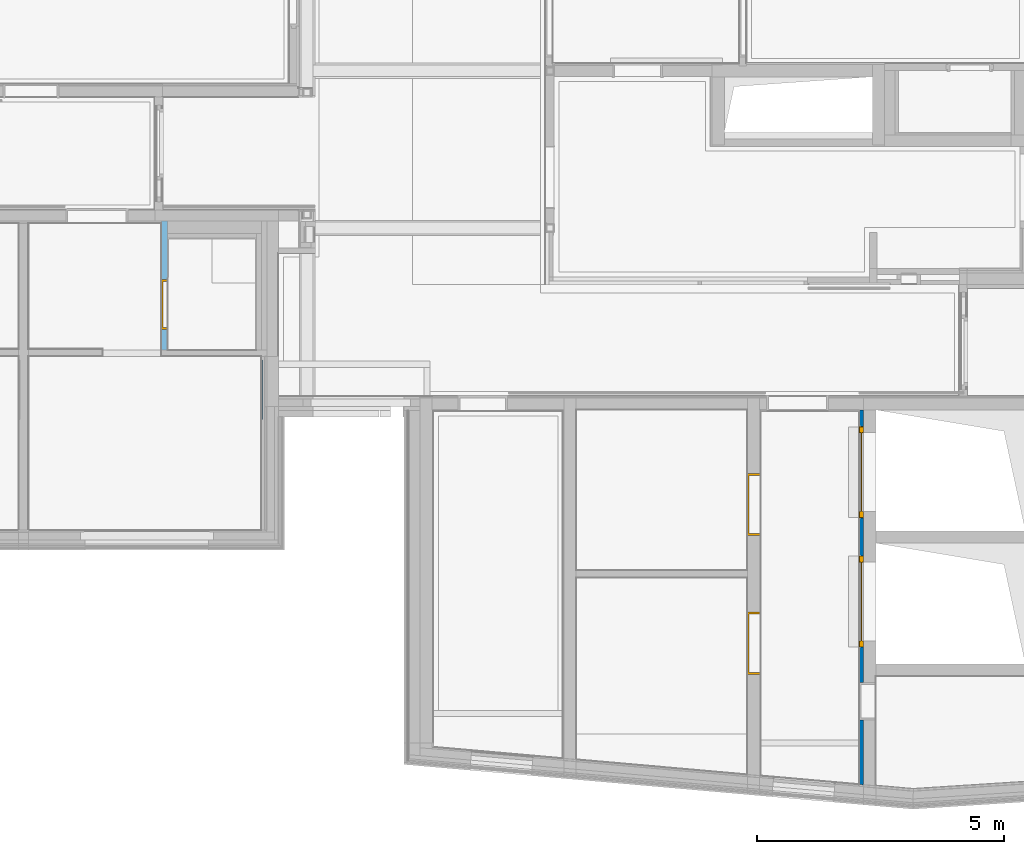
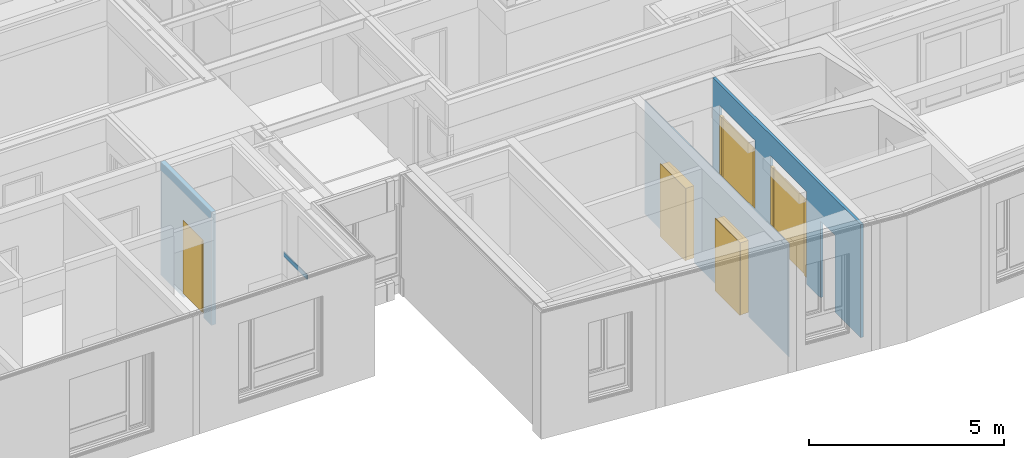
# One storey, part 80 of 222: 5 doors, 2 walls, 6 openings, plus 2 elements that do not belong to this part.
"""IFC4 building model written with IfcOpenShell, lengths in metres."""

from ifc_helpers import new_model, entity, si_unit, converted_unit, derived_unit, frame, frame_2d, origin, origin_with_axes, place, context, subcontext, project, spatial, polyline, rectangle, outline, extrude, faceted_brep, source, transform, mapped, material, type_object, element, fill, save


model = new_model("IFC4")

# Units and contexts
model_context = context("Model", 3, precision=1e-05, world=origin())
body_context = subcontext(model_context, "Body", "Model", "MODEL_VIEW")
ifc_project = project(units=[si_unit("LENGTHUNIT", "METRE"), si_unit("AREAUNIT", "SQUARE_METRE"), si_unit("VOLUMEUNIT", "CUBIC_METRE"), si_unit("MASSUNIT", "GRAM", prefix="KILO"), converted_unit("PLANEANGLEUNIT", "DEGREE", entity("IfcPlaneAngleMeasure", 0.0174532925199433), si_unit("PLANEANGLEUNIT", "RADIAN"), dimensions=[0, 0, 0, 0, 0, 0, 0]), derived_unit("THERMALTRANSMITTANCEUNIT", [(si_unit("POWERUNIT", "WATT"), 1), (si_unit("THERMODYNAMICTEMPERATUREUNIT", "KELVIN"), -1), (si_unit("LENGTHUNIT", "METRE"), -2)]), derived_unit("VOLUMETRICFLOWRATEUNIT", [(si_unit("LENGTHUNIT", "METRE"), 3), (converted_unit("TIMEUNIT", "hour", entity("IfcTimeMeasure", 3600.0), si_unit("TIMEUNIT", "SECOND"), dimensions=[0, 0, 1, 0, 0, 0, 0]), -1), (si_unit("LENGTHUNIT", "METRE"), -1)])], contexts=[model_context])

# Site, building, storey
site_placement = place(None, origin())
site = spatial("IfcSite", under=ifc_project, at=site_placement, Name="Psychiatrie Neubau Wunstorf", CompositionType="ELEMENT")
building_placement = place(site_placement, origin())
building = spatial("IfcBuilding", under=site, at=building_placement, Name="Neubau H2 Stationsgebäude", CompositionType="ELEMENT")
storey_placement = place(building_placement, frame((0.0, 0.0, 3.6)))
storey = spatial("IfcBuildingStorey", under=building, at=storey_placement, Name="H2 Ebene +1", CompositionType="ELEMENT", Elevation=3.6)

# Wall, opening, door
ifc_material_1 = material(Name="WI-LB")
wall_1_placement = place(storey_placement, frame((32.7925, 4.09874963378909, 0.0), z_axis=(0.0, 0.0, 1.0), x_axis=(0.0, -1.0, 0.0)))
wall_1 = element("IfcWall", 1, at=wall_1_placement, inside=storey, material=ifc_material_1, context=body_context, shape_type="SweptSolid", body=[
    extrude(rectangle(XDim=2.61499999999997, YDim=0.125, at=frame_2d((1.30749999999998, 0.0625), x_axis=(1.0, 0.0))), origin_with_axes(), (0.0, 0.0, 1.0), 3.55),
])
opening_1_placement = place(wall_1_placement, frame((2.19000000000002, 0.125, 0.0), z_axis=(0.0, -1.0, 0.0), x_axis=(0.0, 0.0, 1.0)))
opening_1 = element("IfcOpeningElement", 2, at=opening_1_placement, cuts=wall_1, Name="Türöffnung", ObjectType="Opening", context=body_context, shape_type="SweptSolid", body=[
    extrude(outline(polyline([(2.41, 1.01), (2.41, 0.0), (0.0, 0.0), (0.0, 1.01), (2.41, 1.01)])), origin_with_axes(), (0.0, 0.0, 1.0), 0.125),
])
ifc_material_2 = material(Name="TI-1F-UZ-D-N")
door_type_1 = type_object("IfcDoorType", Name="SMT", OperationType="SINGLE_SWING_RIGHT", ParameterTakesPrecedence=False, PredefinedType="DOOR")
shared_shape_1 = source(origin_with_axes(), body_context, "Body", "Brep", [
    faceted_brep([(1.05, 0.0125000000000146, 0.0), (1.05, 0.112500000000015, 0.0), (1.01, 0.112500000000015, 0.0), (1.01, 0.0125000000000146, 0.0), (1.05, 0.112500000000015, 3.55), (1.05, 0.0125000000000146, 3.55), (1.01, 0.0125000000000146, 3.55), (1.01, 0.112500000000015, 3.55)], [[[0, 1, 2, 3]], [[4, 5, 6, 7]], [[1, 0, 5, 4]], [[2, 1, 4, 7]], [[3, 2, 7, 6]], [[0, 3, 6, 5]]], orient=[[False], [False], [False], [False], [False], [False]]),
    faceted_brep([(0.0, 0.0125000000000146, 0.0), (0.0, 0.112500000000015, 0.0), (-0.0400000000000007, 0.112500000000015, 0.0), (-0.0400000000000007, 0.0125000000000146, 0.0), (0.0, 0.112500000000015, 3.55), (0.0, 0.0125000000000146, 3.55), (-0.0400000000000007, 0.0125000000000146, 3.55), (-0.0400000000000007, 0.112500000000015, 3.55)], [[[0, 1, 2, 3]], [[4, 5, 6, 7]], [[1, 0, 5, 4]], [[2, 1, 4, 7]], [[3, 2, 7, 6]], [[0, 3, 6, 5]]], orient=[[False], [False], [False], [False], [False], [False]]),
    faceted_brep([(1.01, 0.0125000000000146, 2.41), (1.01, 0.112500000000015, 2.41), (0.0, 0.112500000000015, 2.41), (0.0, 0.0125000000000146, 2.41), (1.01, 0.112500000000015, 2.45), (1.01, 0.0125000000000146, 2.45), (0.0, 0.0125000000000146, 2.45), (0.0, 0.112500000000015, 2.45)], [[[0, 1, 2, 3]], [[4, 5, 6, 7]], [[1, 0, 5, 4]], [[2, 1, 4, 7]], [[3, 2, 7, 6]], [[0, 3, 6, 5]]], orient=[[False], [False], [False], [False], [False], [False]]),
])
shared_shape_2 = source(origin_with_axes(), body_context, "Body", "Brep", [
    faceted_brep([(1.01, -0.0149999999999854, 2.41), (1.01, -0.0149999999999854, 0.15), (0.969999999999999, -0.0149999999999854, 0.15), (0.969999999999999, -0.0149999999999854, 2.41), (1.01, 0.140000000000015, 0.15), (1.01, 0.140000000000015, 2.41), (0.969999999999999, 0.140000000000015, 2.41), (0.969999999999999, 0.140000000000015, 0.15)], [[[0, 1, 2, 3]], [[4, 5, 6, 7]], [[1, 0, 5, 4]], [[2, 1, 4, 7]], [[3, 2, 7, 6]], [[0, 3, 6, 5]]], orient=[[False], [False], [False], [False], [False], [False]]),
    faceted_brep([(1.01, -0.0149999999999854, 2.425), (1.025, -0.0149999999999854, 2.425), (1.025, -0.0149999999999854, 0.15), (1.01, -0.0149999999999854, 0.15), (1.01, 0.0, 0.15), (1.025, 0.0, 0.15), (1.025, 0.0, 2.425), (1.01, 0.0, 2.425)], [[[0, 1, 2, 3]], [[4, 5, 6, 7]], [[3, 4, 7, 0]], [[2, 5, 4, 3]], [[1, 6, 5, 2]], [[0, 7, 6, 1]]], orient=[[False], [False], [False], [False], [False], [False]]),
    faceted_brep([(1.01, 0.125000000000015, 2.425), (1.025, 0.125000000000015, 2.425), (1.025, 0.125000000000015, 0.15), (1.01, 0.125000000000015, 0.15), (1.01, 0.140000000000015, 0.15), (1.025, 0.140000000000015, 0.15), (1.025, 0.140000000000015, 2.425), (1.01, 0.140000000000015, 2.425)], [[[0, 1, 2, 3]], [[4, 5, 6, 7]], [[3, 4, 7, 0]], [[2, 5, 4, 3]], [[1, 6, 5, 2]], [[0, 7, 6, 1]]], orient=[[False], [False], [False], [False], [False], [False]]),
    faceted_brep([(0.0399999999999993, -0.0149999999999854, 2.41), (0.0399999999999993, -0.0149999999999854, 0.15), (0.0, -0.0149999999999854, 0.15), (0.0, -0.0149999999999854, 2.41), (0.0399999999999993, 0.140000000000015, 0.15), (0.0399999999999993, 0.140000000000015, 2.41), (0.0, 0.140000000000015, 2.41), (0.0, 0.140000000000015, 0.15)], [[[0, 1, 2, 3]], [[4, 5, 6, 7]], [[1, 0, 5, 4]], [[2, 1, 4, 7]], [[3, 2, 7, 6]], [[0, 3, 6, 5]]], orient=[[False], [False], [False], [False], [False], [False]]),
    faceted_brep([(0.0, -0.0149999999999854, 2.425), (0.0, -0.0149999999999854, 0.15), (-0.0150000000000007, -0.0149999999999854, 0.15), (-0.0150000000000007, -0.0149999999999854, 2.425), (0.0, 0.0, 0.15), (0.0, 0.0, 2.425), (-0.0150000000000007, 0.0, 2.425), (-0.0150000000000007, 0.0, 0.15)], [[[0, 1, 2, 3]], [[4, 5, 6, 7]], [[1, 0, 5, 4]], [[2, 1, 4, 7]], [[3, 2, 7, 6]], [[0, 3, 6, 5]]], orient=[[False], [False], [False], [False], [False], [False]]),
    faceted_brep([(0.0, 0.125000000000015, 2.425), (0.0, 0.125000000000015, 0.15), (-0.0150000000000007, 0.125000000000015, 0.15), (-0.0150000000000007, 0.125000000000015, 2.425), (0.0, 0.140000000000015, 0.15), (0.0, 0.140000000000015, 2.425), (-0.0150000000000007, 0.140000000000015, 2.425), (-0.0150000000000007, 0.140000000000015, 0.15)], [[[0, 1, 2, 3]], [[4, 5, 6, 7]], [[1, 0, 5, 4]], [[2, 1, 4, 7]], [[3, 2, 7, 6]], [[0, 3, 6, 5]]], orient=[[False], [False], [False], [False], [False], [False]]),
    faceted_brep([(0.969999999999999, -0.0149999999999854, 2.41), (0.969999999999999, -0.0149999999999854, 2.37), (0.0399999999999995, -0.0149999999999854, 2.37), (0.0399999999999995, -0.0149999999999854, 2.41), (0.969999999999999, 0.140000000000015, 2.37), (0.969999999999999, 0.140000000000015, 2.41), (0.0399999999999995, 0.140000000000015, 2.41), (0.0399999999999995, 0.140000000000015, 2.37)], [[[0, 1, 2, 3]], [[4, 5, 6, 7]], [[1, 0, 5, 4]], [[2, 1, 4, 7]], [[3, 2, 7, 6]], [[0, 3, 6, 5]]], orient=[[False], [False], [False], [False], [False], [False]]),
    faceted_brep([(1.01, -0.0149999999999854, 2.425), (1.01, -0.0149999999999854, 2.41), (0.0, -0.0149999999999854, 2.41), (0.0, -0.0149999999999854, 2.425), (1.01, 0.0, 2.41), (1.01, 0.0, 2.425), (0.0, 0.0, 2.425), (0.0, 0.0, 2.41)], [[[0, 1, 2, 3]], [[4, 5, 6, 7]], [[1, 0, 5, 4]], [[2, 1, 4, 7]], [[3, 2, 7, 6]], [[0, 3, 6, 5]]], orient=[[False], [False], [False], [False], [False], [False]]),
    faceted_brep([(1.01, 0.125000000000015, 2.425), (1.01, 0.125000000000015, 2.41), (0.0, 0.125000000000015, 2.41), (0.0, 0.125000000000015, 2.425), (1.01, 0.140000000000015, 2.41), (1.01, 0.140000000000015, 2.425), (0.0, 0.140000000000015, 2.425), (0.0, 0.140000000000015, 2.41)], [[[0, 1, 2, 3]], [[4, 5, 6, 7]], [[1, 0, 5, 4]], [[2, 1, 4, 7]], [[3, 2, 7, 6]], [[0, 3, 6, 5]]], orient=[[False], [False], [False], [False], [False], [False]]),
    faceted_brep([(0.984999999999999, 0.0910000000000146, 2.385), (0.984999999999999, 0.0910000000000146, 0.15), (0.0249999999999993, 0.0910000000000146, 0.15), (0.0249999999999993, 0.0910000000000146, 2.385), (0.984999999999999, 0.141000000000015, 0.15), (0.984999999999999, 0.141000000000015, 2.385), (0.0249999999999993, 0.141000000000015, 2.385), (0.0249999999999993, 0.141000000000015, 0.15)], [[[0, 1, 2, 3]], [[4, 5, 6, 7]], [[1, 0, 5, 4]], [[2, 1, 4, 7]], [[3, 2, 7, 6]], [[0, 3, 6, 5]]], orient=[[False], [False], [False], [False], [False], [False]]),
])
door_1_placement = place(opening_1_placement, frame((0.0, 0.0, 0.0), z_axis=(1.0, 0.0, 0.0), x_axis=(0.0, 1.0, 0.0)))
door_1 = element("IfcDoor", 3, at=door_1_placement, inside=storey, type_object=door_type_1, material=ifc_material_2, Name="SMT", OverallHeight=2.41, OverallWidth=1.01, context=body_context, shape_type="MappedRepresentation", body=[
    mapped(shared_shape_1, transform((0.0, 0.0, 0.0), x_axis=(1.0, 0.0, 0.0), y_axis=(0.0, 1.0, 0.0), z_axis=(0.0, 0.0, 1.0), scale=1.0)),
    mapped(shared_shape_2, transform((0.0, 0.0, 0.0), x_axis=(1.0, 0.0, 0.0), y_axis=(0.0, 1.0, 0.0), z_axis=(0.0, 0.0, 1.0), scale=1.0)),
])
fill(opening_1, door_1)

# Wall, openings, doors
ifc_material_3 = material(Name="WI-LB")
wall_2_placement = place(storey_placement, frame((44.9410048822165, -7.14178278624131, 0.0), z_axis=(0.0, 0.0, 1.0), x_axis=(0.0, 1.0, 0.0)))
wall_2 = element("IfcWall", 4, at=wall_2_placement, inside=storey, material=ifc_material_3, context=body_context, shape_type="SweptSolid", body=[
    extrude(outline(polyline([(0.0, -0.025), (7.41678278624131, -0.025), (7.41678278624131, 0.0), (0.0021931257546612, 0.0), (0.0, -0.025)])), frame((0.0, 0.025, 0.0), z_axis=(0.0, 0.0, 1.0), x_axis=(1.0, 0.0, 0.0)), (0.0, 0.0, 1.0), 3.55),
])
opening_2_placement = place(wall_2_placement, frame((2.05928242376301, 0.0, 0.0), z_axis=(0.0, 1.0, 0.0), x_axis=(0.0, 0.0, 1.0)))
opening_2 = element("IfcOpeningElement", 5, at=opening_2_placement, cuts=wall_2, Name="SMT", ObjectType="Opening", context=body_context, shape_type="SweptSolid", body=[
    extrude(outline(polyline([(2.41, 1.26), (2.41, 0.0), (0.0, 0.0), (0.0, 1.26), (2.41, 1.26)])), origin_with_axes(), (0.0, 0.0, 1.0), 0.025),
])
opening_3_placement = place(wall_2_placement, frame((4.86928242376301, 0.0, 0.0), z_axis=(0.0, 1.0, 0.0), x_axis=(0.0, 0.0, 1.0)))
opening_3 = element("IfcOpeningElement", 6, at=opening_3_placement, cuts=wall_2, Name="SMT", ObjectType="Opening", context=body_context, shape_type="SweptSolid", body=[
    extrude(outline(polyline([(2.41, 1.26), (2.41, 0.0), (0.0, 0.0), (0.0, 1.26), (2.41, 1.26)])), origin_with_axes(), (0.0, 0.0, 1.0), 0.025),
])
ifc_material_4 = material(Name="TI-1F-UZ-ZK")
door_type_2 = type_object("IfcDoorType", Name="SMT", OperationType="SINGLE_SWING_RIGHT", ParameterTakesPrecedence=False, PredefinedType="DOOR")
shared_shape_3 = source(origin_with_axes(), body_context, "Body", "Brep", [
    faceted_brep([(1.26, -0.0149999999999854, 2.41), (1.26, -0.0149999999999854, 0.15), (1.22, -0.0149999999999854, 0.15), (1.22, -0.0149999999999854, 2.41), (1.26, 0.290000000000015, 0.15), (1.26, 0.290000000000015, 2.41), (1.22, 0.290000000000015, 2.41), (1.22, 0.290000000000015, 0.15)], [[[0, 1, 2, 3]], [[4, 5, 6, 7]], [[1, 0, 5, 4]], [[2, 1, 4, 7]], [[3, 2, 7, 6]], [[0, 3, 6, 5]]], orient=[[False], [False], [False], [False], [False], [False]]),
    faceted_brep([(1.26, -0.0149999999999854, 2.425), (1.275, -0.0149999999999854, 2.425), (1.275, -0.0149999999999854, 0.15), (1.26, -0.0149999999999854, 0.15), (1.26, 0.0, 0.15), (1.275, 0.0, 0.15), (1.275, 0.0, 2.425), (1.26, 0.0, 2.425)], [[[0, 1, 2, 3]], [[4, 5, 6, 7]], [[3, 4, 7, 0]], [[2, 5, 4, 3]], [[1, 6, 5, 2]], [[0, 7, 6, 1]]], orient=[[False], [False], [False], [False], [False], [False]]),
    faceted_brep([(1.26, 0.275000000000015, 2.425), (1.275, 0.275000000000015, 2.425), (1.275, 0.275000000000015, 0.15), (1.26, 0.275000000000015, 0.15), (1.26, 0.290000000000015, 0.15), (1.275, 0.290000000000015, 0.15), (1.275, 0.290000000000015, 2.425), (1.26, 0.290000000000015, 2.425)], [[[0, 1, 2, 3]], [[4, 5, 6, 7]], [[3, 4, 7, 0]], [[2, 5, 4, 3]], [[1, 6, 5, 2]], [[0, 7, 6, 1]]], orient=[[False], [False], [False], [False], [False], [False]]),
    faceted_brep([(0.0400000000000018, -0.0149999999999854, 2.41), (0.0400000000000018, -0.0149999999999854, 0.15), (0.0, -0.0149999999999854, 0.15), (0.0, -0.0149999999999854, 2.41), (0.0400000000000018, 0.290000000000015, 0.15), (0.0400000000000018, 0.290000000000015, 2.41), (0.0, 0.290000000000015, 2.41), (0.0, 0.290000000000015, 0.15)], [[[0, 1, 2, 3]], [[4, 5, 6, 7]], [[1, 0, 5, 4]], [[2, 1, 4, 7]], [[3, 2, 7, 6]], [[0, 3, 6, 5]]], orient=[[False], [False], [False], [False], [False], [False]]),
    faceted_brep([(0.0, -0.0149999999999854, 2.425), (0.0, -0.0149999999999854, 0.15), (-0.0149999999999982, -0.0149999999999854, 0.15), (-0.0149999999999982, -0.0149999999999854, 2.425), (0.0, 0.0, 0.15), (0.0, 0.0, 2.425), (-0.0149999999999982, 0.0, 2.425), (-0.0149999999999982, 0.0, 0.15)], [[[0, 1, 2, 3]], [[4, 5, 6, 7]], [[1, 0, 5, 4]], [[2, 1, 4, 7]], [[3, 2, 7, 6]], [[0, 3, 6, 5]]], orient=[[False], [False], [False], [False], [False], [False]]),
    faceted_brep([(0.0, 0.275000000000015, 2.425), (0.0, 0.275000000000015, 0.15), (-0.0149999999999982, 0.275000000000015, 0.15), (-0.0149999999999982, 0.275000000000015, 2.425), (0.0, 0.290000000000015, 0.15), (0.0, 0.290000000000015, 2.425), (-0.0149999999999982, 0.290000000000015, 2.425), (-0.0149999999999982, 0.290000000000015, 0.15)], [[[0, 1, 2, 3]], [[4, 5, 6, 7]], [[1, 0, 5, 4]], [[2, 1, 4, 7]], [[3, 2, 7, 6]], [[0, 3, 6, 5]]], orient=[[False], [False], [False], [False], [False], [False]]),
    faceted_brep([(1.22, -0.0149999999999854, 2.41), (1.22, -0.0149999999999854, 2.37), (0.0400000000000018, -0.0149999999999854, 2.37), (0.0400000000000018, -0.0149999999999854, 2.41), (1.22, 0.290000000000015, 2.37), (1.22, 0.290000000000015, 2.41), (0.0400000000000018, 0.290000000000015, 2.41), (0.0400000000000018, 0.290000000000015, 2.37)], [[[0, 1, 2, 3]], [[4, 5, 6, 7]], [[1, 0, 5, 4]], [[2, 1, 4, 7]], [[3, 2, 7, 6]], [[0, 3, 6, 5]]], orient=[[False], [False], [False], [False], [False], [False]]),
    faceted_brep([(1.26, -0.0149999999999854, 2.425), (1.26, -0.0149999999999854, 2.41), (0.0, -0.0149999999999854, 2.41), (0.0, -0.0149999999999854, 2.425), (1.26, 0.0, 2.41), (1.26, 0.0, 2.425), (0.0, 0.0, 2.425), (0.0, 0.0, 2.41)], [[[0, 1, 2, 3]], [[4, 5, 6, 7]], [[1, 0, 5, 4]], [[2, 1, 4, 7]], [[3, 2, 7, 6]], [[0, 3, 6, 5]]], orient=[[False], [False], [False], [False], [False], [False]]),
    faceted_brep([(1.26, 0.275000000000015, 2.425), (1.26, 0.275000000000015, 2.41), (0.0, 0.275000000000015, 2.41), (0.0, 0.275000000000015, 2.425), (1.26, 0.290000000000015, 2.41), (1.26, 0.290000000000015, 2.425), (0.0, 0.290000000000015, 2.425), (0.0, 0.290000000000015, 2.41)], [[[0, 1, 2, 3]], [[4, 5, 6, 7]], [[1, 0, 5, 4]], [[2, 1, 4, 7]], [[3, 2, 7, 6]], [[0, 3, 6, 5]]], orient=[[False], [False], [False], [False], [False], [False]]),
    faceted_brep([(1.235, 0.241000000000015, 2.385), (1.235, 0.241000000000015, 0.15), (0.0250000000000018, 0.241000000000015, 0.15), (0.0250000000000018, 0.241000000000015, 2.385), (1.235, 0.291000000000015, 0.15), (1.235, 0.291000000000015, 2.385), (0.0250000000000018, 0.291000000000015, 2.385), (0.0250000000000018, 0.291000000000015, 0.15)], [[[0, 1, 2, 3]], [[4, 5, 6, 7]], [[1, 0, 5, 4]], [[2, 1, 4, 7]], [[3, 2, 7, 6]], [[0, 3, 6, 5]]], orient=[[False], [False], [False], [False], [False], [False]]),
])
door_2_placement = place(opening_2_placement, frame((0.0, 0.0, 0.0), z_axis=(1.0, 0.0, 0.0), x_axis=(0.0, 1.0, 0.0)))
door_2 = element("IfcDoor", 7, at=door_2_placement, inside=storey, type_object=door_type_2, material=ifc_material_4, Name="SMT", OverallHeight=2.41, OverallWidth=1.26, context=body_context, shape_type="MappedRepresentation", body=[
    mapped(shared_shape_3, transform((0.0, 0.0, 0.0), x_axis=(1.0, 0.0, 0.0), y_axis=(0.0, 1.0, 0.0), z_axis=(0.0, 0.0, 1.0), scale=1.0)),
])
fill(opening_2, door_2)
ifc_material_5 = material(Name="TI-1F-UZ-ZK")
door_type_3 = type_object("IfcDoorType", Name="SMT", OperationType="SINGLE_SWING_RIGHT", ParameterTakesPrecedence=False, PredefinedType="DOOR")
shared_shape_4 = source(origin_with_axes(), body_context, "Body", "Brep", [
    faceted_brep([(0.0, -0.0149999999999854, 2.41), (0.0400000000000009, -0.0149999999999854, 2.41), (0.0400000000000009, -0.0149999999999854, 0.15), (0.0, -0.0149999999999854, 0.15), (0.0, 0.290000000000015, 0.15), (0.0400000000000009, 0.290000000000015, 0.15), (0.0400000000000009, 0.290000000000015, 2.41), (0.0, 0.290000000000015, 2.41)], [[[0, 1, 2, 3]], [[4, 5, 6, 7]], [[3, 4, 7, 0]], [[2, 5, 4, 3]], [[1, 6, 5, 2]], [[0, 7, 6, 1]]], orient=[[False], [False], [False], [False], [False], [False]]),
    faceted_brep([(0.0, -0.0149999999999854, 2.425), (0.0, -0.0149999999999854, 0.15), (-0.0149999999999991, -0.0149999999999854, 0.15), (-0.0149999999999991, -0.0149999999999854, 2.425), (0.0, 0.0, 0.15), (0.0, 0.0, 2.425), (-0.0149999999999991, 0.0, 2.425), (-0.0149999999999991, 0.0, 0.15)], [[[0, 1, 2, 3]], [[4, 5, 6, 7]], [[1, 0, 5, 4]], [[2, 1, 4, 7]], [[3, 2, 7, 6]], [[0, 3, 6, 5]]], orient=[[False], [False], [False], [False], [False], [False]]),
    faceted_brep([(0.0, 0.275000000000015, 2.425), (0.0, 0.275000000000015, 0.15), (-0.0149999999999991, 0.275000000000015, 0.15), (-0.0149999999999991, 0.275000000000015, 2.425), (0.0, 0.290000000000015, 0.15), (0.0, 0.290000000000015, 2.425), (-0.0149999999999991, 0.290000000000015, 2.425), (-0.0149999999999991, 0.290000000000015, 0.15)], [[[0, 1, 2, 3]], [[4, 5, 6, 7]], [[1, 0, 5, 4]], [[2, 1, 4, 7]], [[3, 2, 7, 6]], [[0, 3, 6, 5]]], orient=[[False], [False], [False], [False], [False], [False]]),
    faceted_brep([(1.22, -0.0149999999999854, 2.41), (1.26, -0.0149999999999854, 2.41), (1.26, -0.0149999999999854, 0.15), (1.22, -0.0149999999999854, 0.15), (1.22, 0.290000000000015, 0.15), (1.26, 0.290000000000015, 0.15), (1.26, 0.290000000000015, 2.41), (1.22, 0.290000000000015, 2.41)], [[[0, 1, 2, 3]], [[4, 5, 6, 7]], [[3, 4, 7, 0]], [[2, 5, 4, 3]], [[1, 6, 5, 2]], [[0, 7, 6, 1]]], orient=[[False], [False], [False], [False], [False], [False]]),
    faceted_brep([(1.26, -0.0149999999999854, 2.425), (1.275, -0.0149999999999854, 2.425), (1.275, -0.0149999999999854, 0.15), (1.26, -0.0149999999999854, 0.15), (1.26, 0.0, 0.15), (1.275, 0.0, 0.15), (1.275, 0.0, 2.425), (1.26, 0.0, 2.425)], [[[0, 1, 2, 3]], [[4, 5, 6, 7]], [[3, 4, 7, 0]], [[2, 5, 4, 3]], [[1, 6, 5, 2]], [[0, 7, 6, 1]]], orient=[[False], [False], [False], [False], [False], [False]]),
    faceted_brep([(1.26, 0.275000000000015, 2.425), (1.275, 0.275000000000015, 2.425), (1.275, 0.275000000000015, 0.15), (1.26, 0.275000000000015, 0.15), (1.26, 0.290000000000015, 0.15), (1.275, 0.290000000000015, 0.15), (1.275, 0.290000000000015, 2.425), (1.26, 0.290000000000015, 2.425)], [[[0, 1, 2, 3]], [[4, 5, 6, 7]], [[3, 4, 7, 0]], [[2, 5, 4, 3]], [[1, 6, 5, 2]], [[0, 7, 6, 1]]], orient=[[False], [False], [False], [False], [False], [False]]),
    faceted_brep([(0.0400000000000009, -0.0149999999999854, 2.41), (1.22, -0.0149999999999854, 2.41), (1.22, -0.0149999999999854, 2.37), (0.0400000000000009, -0.0149999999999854, 2.37), (0.0400000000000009, 0.290000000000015, 2.37), (1.22, 0.290000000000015, 2.37), (1.22, 0.290000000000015, 2.41), (0.0400000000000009, 0.290000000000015, 2.41)], [[[0, 1, 2, 3]], [[4, 5, 6, 7]], [[3, 4, 7, 0]], [[2, 5, 4, 3]], [[1, 6, 5, 2]], [[0, 7, 6, 1]]], orient=[[False], [False], [False], [False], [False], [False]]),
    faceted_brep([(0.0, -0.0149999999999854, 2.425), (1.26, -0.0149999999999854, 2.425), (1.26, -0.0149999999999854, 2.41), (0.0, -0.0149999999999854, 2.41), (0.0, 0.0, 2.41), (1.26, 0.0, 2.41), (1.26, 0.0, 2.425), (0.0, 0.0, 2.425)], [[[0, 1, 2, 3]], [[4, 5, 6, 7]], [[3, 4, 7, 0]], [[2, 5, 4, 3]], [[1, 6, 5, 2]], [[0, 7, 6, 1]]], orient=[[False], [False], [False], [False], [False], [False]]),
    faceted_brep([(0.0, 0.275000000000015, 2.425), (1.26, 0.275000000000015, 2.425), (1.26, 0.275000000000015, 2.41), (0.0, 0.275000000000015, 2.41), (0.0, 0.290000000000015, 2.41), (1.26, 0.290000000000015, 2.41), (1.26, 0.290000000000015, 2.425), (0.0, 0.290000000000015, 2.425)], [[[0, 1, 2, 3]], [[4, 5, 6, 7]], [[3, 4, 7, 0]], [[2, 5, 4, 3]], [[1, 6, 5, 2]], [[0, 7, 6, 1]]], orient=[[False], [False], [False], [False], [False], [False]]),
    faceted_brep([(0.0250000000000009, 0.241000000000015, 2.385), (1.235, 0.241000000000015, 2.385), (1.235, 0.241000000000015, 0.15), (0.0250000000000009, 0.241000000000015, 0.15), (0.0250000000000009, 0.291000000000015, 0.15), (1.235, 0.291000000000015, 0.15), (1.235, 0.291000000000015, 2.385), (0.0250000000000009, 0.291000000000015, 2.385)], [[[0, 1, 2, 3]], [[4, 5, 6, 7]], [[3, 4, 7, 0]], [[2, 5, 4, 3]], [[1, 6, 5, 2]], [[0, 7, 6, 1]]], orient=[[False], [False], [False], [False], [False], [False]]),
])
door_3_placement = place(opening_3_placement, frame((0.0, 0.0, 0.0), z_axis=(1.0, 0.0, 0.0), x_axis=(0.0, 1.0, 0.0)))
door_3 = element("IfcDoor", 8, at=door_3_placement, inside=storey, type_object=door_type_3, material=ifc_material_5, Name="SMT", OverallHeight=2.41, OverallWidth=1.26, context=body_context, shape_type="MappedRepresentation", body=[
    mapped(shared_shape_4, transform((0.0, 0.0, 0.0), x_axis=(1.0, 0.0, 0.0), y_axis=(0.0, 1.0, 0.0), z_axis=(0.0, 0.0, 1.0), scale=1.0)),
])
fill(opening_3, door_3)

# Wall
wall_3_placement = place(storey_placement, frame((34.814, 0.0854496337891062, 1.575)))
element("IfcWall", 9, at=wall_3_placement, inside=storey, Name="WV 1.1", context=body_context, shape_type="Brep", body=[
    faceted_brep([(0.025, 1.2, 0.0), (0.0, 1.2, 0.0), (0.0, 0.0, 0.0), (0.025, 0.0, 0.0), (0.0, 1.2, 0.15), (0.025, 1.2, 0.15), (0.025, 0.0, 0.15), (0.0, 0.0, 0.15)], [[[0, 1, 2, 3]], [[4, 5, 6, 7]], [[1, 0, 5, 4]], [[2, 1, 4, 7]], [[3, 2, 7, 6]], [[0, 3, 6, 5]]], orient=[[False], [False], [False], [False], [False], [False]]),
])

# Wall, openings, doors
ifc_material_6 = material(Name="WI-LB")
wall_4_placement = place(storey_placement, frame((46.9400048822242, -7.32418715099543, 0.0)))
wall_4 = element("IfcWall", 10, at=wall_4_placement, inside=storey, material=ifc_material_6, context=body_context, shape_type="Brep", body=[
    faceted_brep([(0.08, 7.25418684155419, 2.57), (0.08, 5.41418684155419, 2.57), (0.0, 5.41418684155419, 2.57), (0.0, 7.25418684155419, 2.57), (0.0, 7.25418684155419, 2.895), (0.0, 5.41418684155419, 2.895), (0.08, 5.41418684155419, 2.895), (0.08, 7.25418684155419, 2.895), (0.08, 4.63419904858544, 2.57), (0.08, 2.79419904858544, 2.57), (0.0, 2.79419904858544, 2.57), (0.0, 4.63419904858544, 2.57), (0.0, 4.63419904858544, 2.895), (0.0, 2.79419904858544, 2.895), (0.08, 2.79419904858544, 2.895), (0.08, 4.63419904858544, 2.895), (0.0, 0.00701893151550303, 0.0), (0.0, 7.59918715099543, 0.0), (0.0, 7.59918715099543, 3.55), (0.0, 0.00701893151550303, 3.55), (0.08, 7.59918715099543, 0.0), (0.08, 7.59918715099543, 3.55), (0.08, 0.0, 0.0), (0.08, 0.0, 3.55)], [[[0, 1, 2, 3]], [[4, 5, 6, 7]], [[7, 0, 3, 4]], [[5, 2, 1, 6]], [[8, 9, 10, 11]], [[12, 13, 14, 15]], [[15, 8, 11, 12]], [[13, 10, 9, 14]], [[16, 17, 18, 19], [2, 5, 4, 3], [10, 13, 12, 11]], [[17, 20, 21, 18]], [[20, 22, 23, 21], [0, 7, 6, 1], [8, 15, 14, 9]], [[22, 16, 19, 23]], [[23, 19, 18, 21]], [[16, 22, 20, 17]]], orient=[[False], [False], [False], [False], [False], [False], [False], [False], [False, False, False], [False], [False, False, False], [False], [False], [False]]),
])
opening_4_placement = place(wall_4_placement, frame((0.0, 7.25683496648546, 0.0), z_axis=(1.0, 0.0, 0.0), x_axis=(0.0, 0.0, 1.0)))
opening_4 = element("IfcOpeningElement", 11, at=opening_4_placement, cuts=wall_4, Name="Türöffnung", ObjectType="Opening", context=body_context, shape_type="SweptSolid", body=[
    extrude(outline(polyline([(2.57, 1.84), (2.57, 0.0), (0.0, 0.0), (0.0, 1.84), (2.57, 1.84)])), origin_with_axes(), (0.0, 0.0, 1.0), 0.08),
])
opening_5_placement = place(wall_4_placement, frame((0.0, 4.63419904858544, 0.0), z_axis=(1.0, 0.0, 0.0), x_axis=(0.0, 0.0, 1.0)))
opening_5 = element("IfcOpeningElement", 12, at=opening_5_placement, cuts=wall_4, Name="Türöffnung", ObjectType="Opening", context=body_context, shape_type="SweptSolid", body=[
    extrude(outline(polyline([(2.57, 1.84), (2.57, 0.0), (0.0, 0.0), (0.0, 1.84), (2.57, 1.84)])), origin_with_axes(), (0.0, 0.0, 1.0), 0.08),
])
opening_6_placement = place(wall_4_placement, frame((0.0, 2.07383229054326, 0.0), z_axis=(1.0, 0.0, 0.0), x_axis=(0.0, 0.0, 1.0)))
element("IfcOpeningElement", 13, at=opening_6_placement, cuts=wall_4, Name="Türöffnung", ObjectType="Opening", context=body_context, shape_type="SweptSolid", body=[
    extrude(outline(polyline([(2.41, 0.76), (2.41, 0.0), (0.0, 0.0), (0.0, 0.76), (2.41, 0.76)])), origin_with_axes(), (0.0, 0.0, 1.0), 0.08),
])
ifc_material_7 = material(Name="TI-1F-UZ-M-ZK")
shared_shape_5 = source(origin_with_axes(), body_context, "Body", "Brep", [
    faceted_brep([(1.63456423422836, 0.0150516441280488, 2.57), (1.63456423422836, 0.0150516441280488, 0.2), (1.51456423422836, 0.0150516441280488, 0.2), (1.51456423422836, 0.0150516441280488, 2.57), (1.63456423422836, 0.0950516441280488, 0.2), (1.63456423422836, 0.0950516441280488, 2.57), (1.51456423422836, 0.0950516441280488, 2.57), (1.51456423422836, 0.0950516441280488, 0.2)], [[[0, 1, 2, 3]], [[4, 5, 6, 7]], [[1, 0, 5, 4]], [[2, 1, 4, 7]], [[3, 2, 7, 6]], [[0, 3, 6, 5]]], orient=[[False], [False], [False], [False], [False], [False]]),
    faceted_brep([(-0.0854357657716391, 0.0150516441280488, 2.57), (-0.0854357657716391, 0.0150516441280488, 0.2), (-0.205435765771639, 0.0150516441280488, 0.2), (-0.205435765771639, 0.0150516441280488, 2.57), (-0.0854357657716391, 0.0950516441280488, 0.2), (-0.0854357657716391, 0.0950516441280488, 2.57), (-0.205435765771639, 0.0950516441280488, 2.57), (-0.205435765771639, 0.0950516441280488, 0.2)], [[[0, 1, 2, 3]], [[4, 5, 6, 7]], [[1, 0, 5, 4]], [[2, 1, 4, 7]], [[3, 2, 7, 6]], [[0, 3, 6, 5]]], orient=[[False], [False], [False], [False], [False], [False]]),
    faceted_brep([(1.52956423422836, 0.0460516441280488, 2.585), (1.52956423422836, 0.0460516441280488, 0.2), (-0.100435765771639, 0.0460516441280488, 0.2), (-0.100435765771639, 0.0460516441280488, 2.585), (1.52956423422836, 0.0610516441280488, 0.2), (1.52956423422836, 0.0610516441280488, 2.585), (-0.100435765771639, 0.0610516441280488, 2.585), (-0.100435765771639, 0.0610516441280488, 0.2)], [[[0, 1, 2, 3]], [[4, 5, 6, 7]], [[1, 0, 5, 4]], [[2, 1, 4, 7]], [[3, 2, 7, 6]], [[0, 3, 6, 5]]], orient=[[False], [False], [False], [False], [False], [False]]),
])
door_4_placement = place(opening_4_placement, frame((0.0, 1.63456423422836, 0.0950516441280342), z_axis=(1.0, 0.0, 0.0), x_axis=(0.0, -1.0, 0.0)))
door_4 = element("IfcDoor", 14, at=door_4_placement, inside=storey, material=ifc_material_7, Name="FS-Vorhang", OperationType="USERDEFINED", OverallHeight=2.57, OverallWidth=1.84, PredefinedType="DOOR", context=body_context, shape_type="MappedRepresentation", body=[
    mapped(shared_shape_5, transform((0.0, 0.0, 0.0), x_axis=(1.0, 0.0, 0.0), y_axis=(0.0, 1.0, 0.0), z_axis=(0.0, 0.0, 1.0), scale=1.0)),
])
fill(opening_4, door_4)
ifc_material_8 = material(Name="TI-1F-UZ-M-ZK")
shared_shape_6 = source(origin_with_axes(), body_context, "Body", "Brep", [
    faceted_brep([(1.63456423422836, 0.0150516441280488, 2.57), (1.63456423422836, 0.0150516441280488, 0.2), (1.51456423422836, 0.0150516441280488, 0.2), (1.51456423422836, 0.0150516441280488, 2.57), (1.63456423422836, 0.0950516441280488, 0.2), (1.63456423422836, 0.0950516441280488, 2.57), (1.51456423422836, 0.0950516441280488, 2.57), (1.51456423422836, 0.0950516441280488, 0.2)], [[[0, 1, 2, 3]], [[4, 5, 6, 7]], [[1, 0, 5, 4]], [[2, 1, 4, 7]], [[3, 2, 7, 6]], [[0, 3, 6, 5]]], orient=[[False], [False], [False], [False], [False], [False]]),
    faceted_brep([(-0.0854357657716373, 0.0150516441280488, 2.57), (-0.0854357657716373, 0.0150516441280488, 0.2), (-0.205435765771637, 0.0150516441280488, 0.2), (-0.205435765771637, 0.0150516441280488, 2.57), (-0.0854357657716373, 0.0950516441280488, 0.2), (-0.0854357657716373, 0.0950516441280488, 2.57), (-0.205435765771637, 0.0950516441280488, 2.57), (-0.205435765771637, 0.0950516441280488, 0.2)], [[[0, 1, 2, 3]], [[4, 5, 6, 7]], [[1, 0, 5, 4]], [[2, 1, 4, 7]], [[3, 2, 7, 6]], [[0, 3, 6, 5]]], orient=[[False], [False], [False], [False], [False], [False]]),
    faceted_brep([(1.52956423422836, 0.0460516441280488, 2.585), (1.52956423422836, 0.0460516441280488, 0.2), (-0.100435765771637, 0.0460516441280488, 0.2), (-0.100435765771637, 0.0460516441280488, 2.585), (1.52956423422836, 0.0610516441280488, 0.2), (1.52956423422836, 0.0610516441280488, 2.585), (-0.100435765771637, 0.0610516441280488, 2.585), (-0.100435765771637, 0.0610516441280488, 0.2)], [[[0, 1, 2, 3]], [[4, 5, 6, 7]], [[1, 0, 5, 4]], [[2, 1, 4, 7]], [[3, 2, 7, 6]], [[0, 3, 6, 5]]], orient=[[False], [False], [False], [False], [False], [False]]),
])
door_5_placement = place(opening_5_placement, frame((0.0, 1.63456423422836, 0.0950516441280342), z_axis=(1.0, 0.0, 0.0), x_axis=(0.0, -1.0, 0.0)))
door_5 = element("IfcDoor", 15, at=door_5_placement, inside=storey, material=ifc_material_8, Name="FS-Vorhang", OperationType="USERDEFINED", OverallHeight=2.57, OverallWidth=1.84, PredefinedType="DOOR", context=body_context, shape_type="MappedRepresentation", body=[
    mapped(shared_shape_6, transform((0.0, 0.0, 0.0), x_axis=(1.0, 0.0, 0.0), y_axis=(0.0, 1.0, 0.0), z_axis=(0.0, 0.0, 1.0), scale=1.0)),
])
fill(opening_5, door_5)

save(model, "model.ifc")
